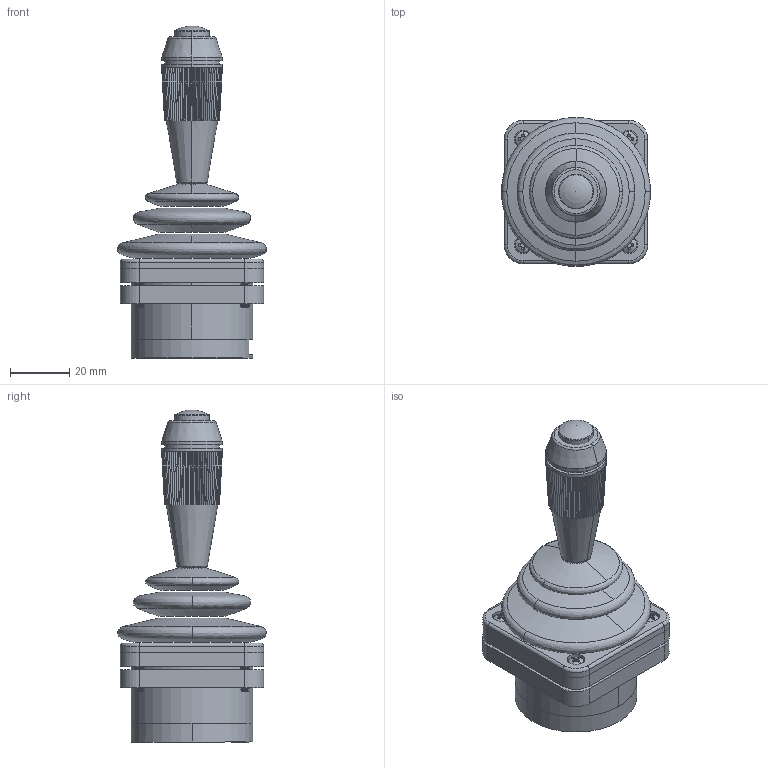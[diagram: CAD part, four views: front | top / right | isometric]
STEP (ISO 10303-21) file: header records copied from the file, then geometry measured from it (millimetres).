
FILE_DESCRIPTION(('FreeCAD Model'),'2;1');
FILE_NAME('O:/12-Produkte/12-10 PM/12-10-10 JOY/01_Produktinfo/TRY100/Zeichnungen/TRY100 3 5 1 5 X X 1.step', '2020-04-02T08:41:10',('Author'),(''), 'Open CASCADE STEP processor 7.3','FreeCAD','Unknown');
FILE_SCHEMA(('AUTOMOTIVE_DESIGN { 1 0 10303 214 1 1 1 1 }'));
Length unit declared in the file: millimetre
Products named in the file (1): TRY100_3_5_1_5_X_X_1
Bounding box: 50.13 x 50.13 x 111.76 mm (x, y, z)
Surface area: 24111.5 mm2 (no closed solid volume)
Topology: 0 solids, 31 shells, 920 faces, 7349 edges, 20088 vertices
Faces by surface type: plane 543, cylinder 262, cone 78, torus 16, bspline 12, sphere 9
Entity records: 140488 total; most frequent: CARTESIAN_POINT 65356, DIRECTION 13306, LINE 7826, VECTOR 7826, GEOMETRIC_CURVE_SET 4577, ORIENTED_EDGE 4575, PCURVE 4575, DEFINITIONAL_REPRESENTATION 4575
